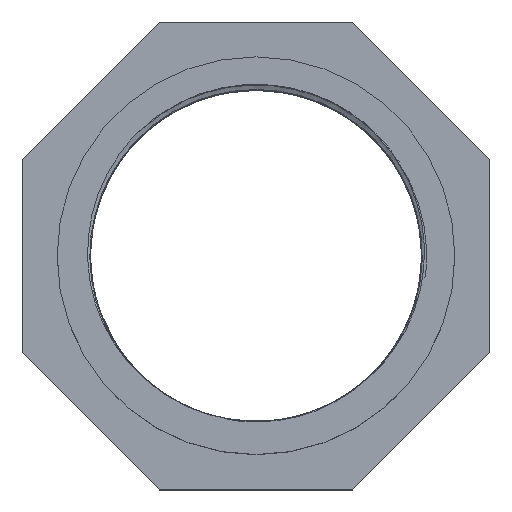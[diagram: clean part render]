
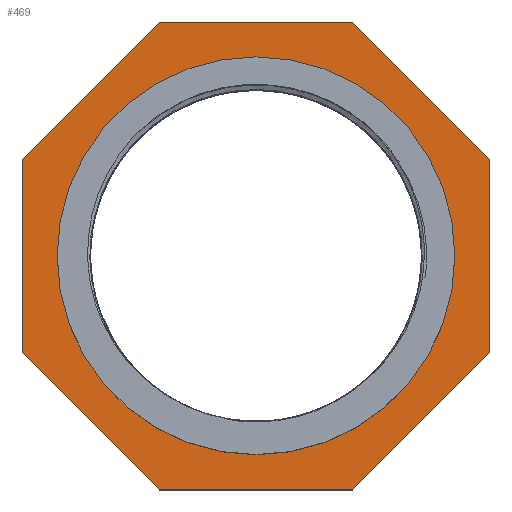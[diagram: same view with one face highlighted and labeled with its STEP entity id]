
A CAD part, top view. The second image highlights one B-rep face of the part: STEP entity #469.
In plain terms, the highlighted planar face has unit normal (0, 0, 1).
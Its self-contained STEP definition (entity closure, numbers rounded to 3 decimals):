
#16=FACE_BOUND('',#107,.T.);
#38=PLANE('',#497);
#49=CIRCLE('',#498,51.);
#76=FACE_OUTER_BOUND('',#106,.T.);
#106=EDGE_LOOP('',(#411,#412,#413,#414,#415,#416,#417,#418));
#107=EDGE_LOOP('',(#419));
#126=LINE('',#13014,#156);
#130=LINE('',#13022,#160);
#133=LINE('',#13028,#163);
#136=LINE('',#13034,#166);
#139=LINE('',#13040,#169);
#142=LINE('',#13046,#172);
#145=LINE('',#13052,#175);
#148=LINE('',#13057,#178);
#156=VECTOR('',#539,49.706);
#160=VECTOR('',#545,49.706);
#163=VECTOR('',#550,49.706);
#166=VECTOR('',#555,49.706);
#169=VECTOR('',#560,49.706);
#172=VECTOR('',#565,49.706);
#175=VECTOR('',#570,49.706);
#178=VECTOR('',#575,49.706);
#224=VERTEX_POINT('',#13012);
#225=VERTEX_POINT('',#13013);
#228=VERTEX_POINT('',#13021);
#230=VERTEX_POINT('',#13027);
#232=VERTEX_POINT('',#13033);
#234=VERTEX_POINT('',#13039);
#236=VERTEX_POINT('',#13045);
#238=VERTEX_POINT('',#13051);
#240=VERTEX_POINT('',#13061);
#280=EDGE_CURVE('',#224,#225,#126,.T.);
#284=EDGE_CURVE('',#228,#224,#130,.T.);
#287=EDGE_CURVE('',#230,#228,#133,.T.);
#290=EDGE_CURVE('',#232,#230,#136,.T.);
#293=EDGE_CURVE('',#234,#232,#139,.T.);
#296=EDGE_CURVE('',#236,#234,#142,.T.);
#299=EDGE_CURVE('',#238,#236,#145,.T.);
#302=EDGE_CURVE('',#225,#238,#148,.T.);
#304=EDGE_CURVE('',#240,#240,#49,.T.);
#411=ORIENTED_EDGE('',*,*,#302,.F.);
#412=ORIENTED_EDGE('',*,*,#280,.F.);
#413=ORIENTED_EDGE('',*,*,#284,.F.);
#414=ORIENTED_EDGE('',*,*,#287,.F.);
#415=ORIENTED_EDGE('',*,*,#290,.F.);
#416=ORIENTED_EDGE('',*,*,#293,.F.);
#417=ORIENTED_EDGE('',*,*,#296,.F.);
#418=ORIENTED_EDGE('',*,*,#299,.F.);
#419=ORIENTED_EDGE('',*,*,#304,.F.);
#469=ADVANCED_FACE('',(#76,#16),#38,.T.);
#497=AXIS2_PLACEMENT_3D('',#13060,#579,#580);
#498=AXIS2_PLACEMENT_3D('',#13062,#581,#582);
#539=DIRECTION('',(1.,0.,0.));
#545=DIRECTION('',(0.707,0.707,0.));
#550=DIRECTION('',(0.,1.,0.));
#555=DIRECTION('',(-0.707,0.707,0.));
#560=DIRECTION('',(-1.,0.,0.));
#565=DIRECTION('',(-0.707,-0.707,0.));
#570=DIRECTION('',(0.,-1.,0.));
#575=DIRECTION('',(0.707,-0.707,0.));
#579=DIRECTION('center_axis',(0.,0.,1.));
#580=DIRECTION('ref_axis',(1.,0.,0.));
#581=DIRECTION('center_axis',(0.,0.,1.));
#582=DIRECTION('ref_axis',(1.,0.,0.));
#13012=CARTESIAN_POINT('',(-24.853,60.,56.));
#13013=CARTESIAN_POINT('',(24.853,60.,56.));
#13014=CARTESIAN_POINT('',(-24.853,60.,56.));
#13021=CARTESIAN_POINT('',(-60.,24.853,56.));
#13022=CARTESIAN_POINT('',(-60.,24.853,56.));
#13027=CARTESIAN_POINT('',(-60.,-24.853,56.));
#13028=CARTESIAN_POINT('',(-60.,-24.853,56.));
#13033=CARTESIAN_POINT('',(-24.853,-60.,56.));
#13034=CARTESIAN_POINT('',(-24.853,-60.,56.));
#13039=CARTESIAN_POINT('',(24.853,-60.,56.));
#13040=CARTESIAN_POINT('',(24.853,-60.,56.));
#13045=CARTESIAN_POINT('',(60.,-24.853,56.));
#13046=CARTESIAN_POINT('',(60.,-24.853,56.));
#13051=CARTESIAN_POINT('',(60.,24.853,56.));
#13052=CARTESIAN_POINT('',(60.,24.853,56.));
#13057=CARTESIAN_POINT('',(24.853,60.,56.));
#13060=CARTESIAN_POINT('Origin',(51.,0.,56.));
#13061=CARTESIAN_POINT('',(51.,0.,56.));
#13062=CARTESIAN_POINT('Origin',(0.,0.,56.));
